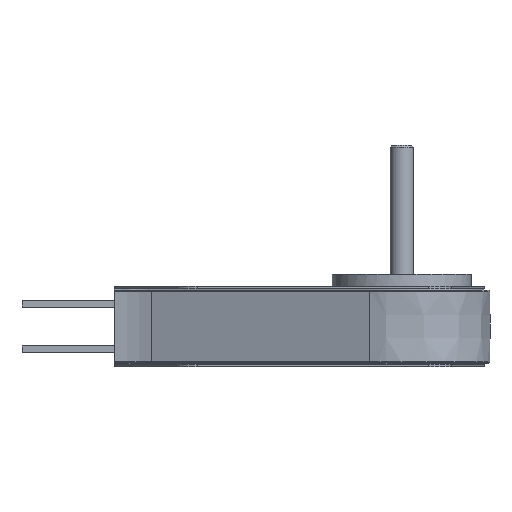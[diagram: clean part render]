
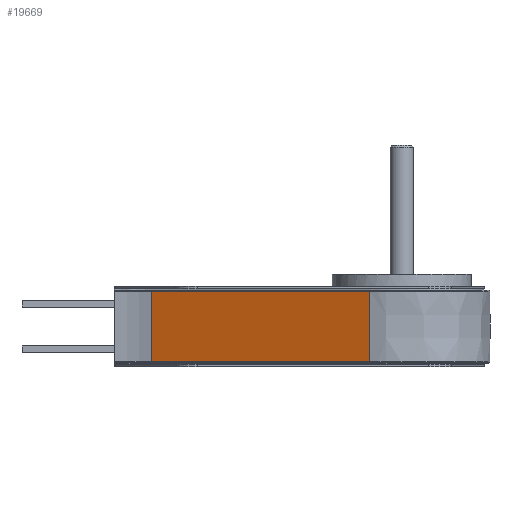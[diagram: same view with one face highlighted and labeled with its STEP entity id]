
A CAD part, front view. The second image highlights one B-rep face of the part: STEP entity #19669.
In plain terms, the highlighted planar face has unit normal (-0.359, -0.933, 0).
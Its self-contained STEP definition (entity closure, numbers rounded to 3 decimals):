
#735 = CARTESIAN_POINT ( 'NONE',  ( -27.498, -71.399, -30.293 ) ) ;
#1023 = CARTESIAN_POINT ( 'NONE',  ( -27.498, -71.399, 0. ) ) ;
#2354 = LINE ( 'NONE', #15129, #12509 ) ;
#3299 = CARTESIAN_POINT ( 'NONE',  ( -27.498, -71.399, 30.293 ) ) ;
#3417 = CARTESIAN_POINT ( 'NONE',  ( -216.305, 1.318, 0. ) ) ;
#3790 = CARTESIAN_POINT ( 'NONE',  ( -27.498, -71.399, 30.293 ) ) ;
#4189 = VECTOR ( 'NONE', #11228, 1000. ) ;
#4686 = PLANE ( 'NONE',  #16831 ) ;
#5210 = ORIENTED_EDGE ( 'NONE', *, *, #11690, .T. ) ;
#8402 = DIRECTION ( 'NONE',  ( -0.359, -0.933, 0. ) ) ;
#8495 = CARTESIAN_POINT ( 'NONE',  ( -27.498, -71.399, 0. ) ) ;
#9811 = VERTEX_POINT ( 'NONE', #735 ) ;
#10013 = EDGE_CURVE ( 'NONE', #19232, #15205, #15193, .T. ) ;
#10058 = VERTEX_POINT ( 'NONE', #3299 ) ;
#10337 = DIRECTION ( 'NONE',  ( 0., 0., 1. ) ) ;
#11228 = DIRECTION ( 'NONE',  ( -0.933, 0.359, 0. ) ) ;
#11690 = EDGE_CURVE ( 'NONE', #10058, #15205, #17267, .T. ) ;
#12229 = DIRECTION ( 'NONE',  ( 0.933, -0.359, 0. ) ) ;
#12330 = FACE_OUTER_BOUND ( 'NONE', #13977, .T. ) ;
#12354 = CARTESIAN_POINT ( 'NONE',  ( -216.305, 1.318, -30.293 ) ) ;
#12509 = VECTOR ( 'NONE', #20570, 1000. ) ;
#13977 = EDGE_LOOP ( 'NONE', ( #23344, #5210, #22068, #16639 ) ) ;
#15129 = CARTESIAN_POINT ( 'NONE',  ( -27.498, -71.399, -30.293 ) ) ;
#15193 = LINE ( 'NONE', #3417, #17527 ) ;
#15205 = VERTEX_POINT ( 'NONE', #23321 ) ;
#15339 = LINE ( 'NONE', #1023, #20262 ) ;
#16451 = DIRECTION ( 'NONE',  ( 0., 0., 1. ) ) ;
#16639 = ORIENTED_EDGE ( 'NONE', *, *, #17565, .F. ) ;
#16831 = AXIS2_PLACEMENT_3D ( 'NONE', #8495, #8402, #12229 ) ;
#17267 = LINE ( 'NONE', #3790, #4189 ) ;
#17527 = VECTOR ( 'NONE', #16451, 1000. ) ;
#17565 = EDGE_CURVE ( 'NONE', #9811, #19232, #2354, .T. ) ;
#19232 = VERTEX_POINT ( 'NONE', #12354 ) ;
#19669 = ADVANCED_FACE ( 'NONE', ( #12330 ), #4686, .T. ) ;
#20021 = EDGE_CURVE ( 'NONE', #9811, #10058, #15339, .T. ) ;
#20262 = VECTOR ( 'NONE', #10337, 1000. ) ;
#20570 = DIRECTION ( 'NONE',  ( -0.933, 0.359, 0. ) ) ;
#22068 = ORIENTED_EDGE ( 'NONE', *, *, #10013, .F. ) ;
#23321 = CARTESIAN_POINT ( 'NONE',  ( -216.305, 1.318, 30.293 ) ) ;
#23344 = ORIENTED_EDGE ( 'NONE', *, *, #20021, .T. ) ;
